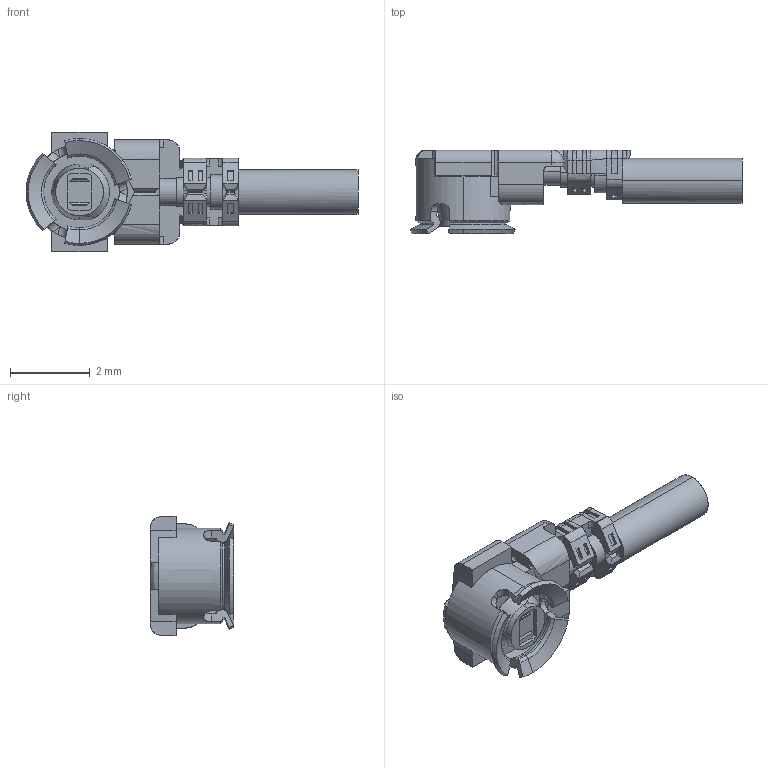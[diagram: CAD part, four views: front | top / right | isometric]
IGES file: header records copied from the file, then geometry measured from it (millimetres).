
Start section: SolidWorks IGES file using analytic representation for surfaces
Global section: file name: C:\3dwork\imaji\00.Web model check\00. New 3D\MHF I\20278-1xxR-13C PLUG  R15 IGES ALL.IGS; native system: SolidWorks 2017; preprocessor: SolidWorks 2017; author: ipxcad-013; date: 180703.174802; units: millimetre
Bounding box: 8.35 x 2.1 x 3 mm (x, y, z)
Surface area: 71.6 mm2 (no closed solid volume)
Topology: 0 solids, 0 shells, 378 faces, 2710 edges, 2704 vertices
Faces by surface type: bspline 266, revolution 112
